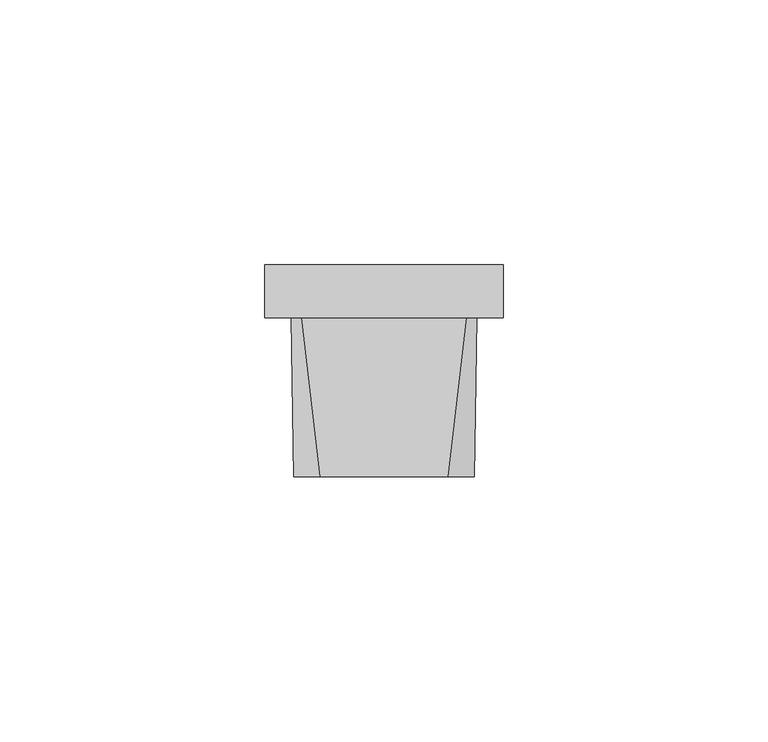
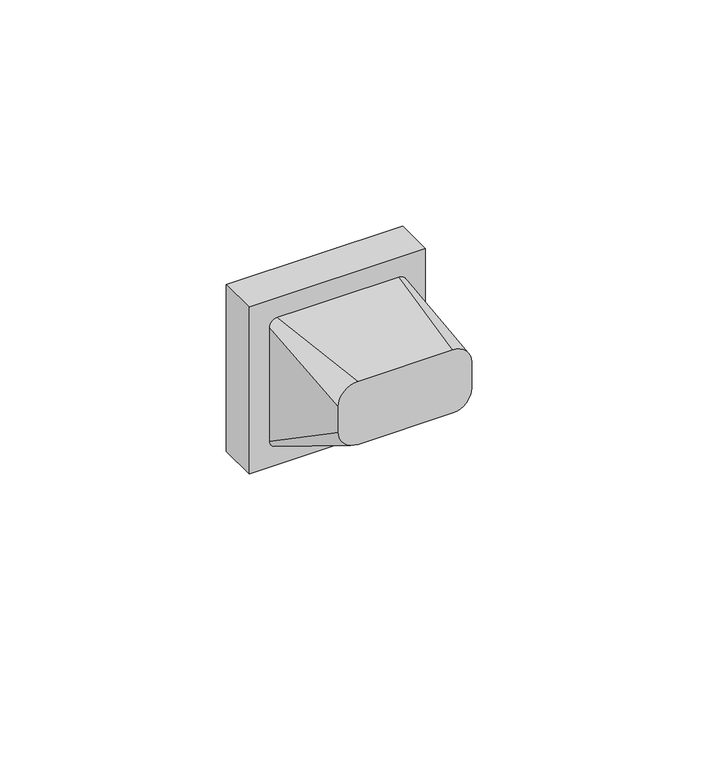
"""IFC4 building model written with IfcOpenShell, lengths in millimetres: proxy geometry, IEK_Skandy_Механизм розетки мультимедийной : HDMI_SK-H01B."""

from ifc_helpers import new_model, si_unit, frame, origin, place, context, project, spatial, polyline, circle_curve, outline, extrude, faceted_brep, source, transform, mapped, element, save
from ifc_brep_helpers import plane_surface, spline_surface, advanced_brep


def electrical_fixtures_ba285ae0(model_context):
    return source(origin(), model_context, "Body", "SolidModel", [
        faceted_brep([(-22.5, 10.0, 22.5), (22.5, 10.0, 22.5), (22.5, 10.0, -22.5), (-22.5, 10.0, -22.5), (7.5, 10.0, -1.7401485), (7.5, 10.0, 1.7401485), (-7.5, 10.0, 1.7401485), (-7.5, 10.0, -1.7401485), (-5.796619, 10.0, -1.7401485), (-4.3308826, 10.0, -3.2058849), (4.3308826, 10.0, -3.2058849), (5.796619, 10.0, -1.7401485), (-22.5, 0.0, 22.5), (-22.5, 0.0, -22.5), (22.5, 0.0, -22.5), (22.5, 0.0, 22.5), (7.5, 1.2588911, 1.7401485), (7.5, 1.2588911, -1.7401485), (5.796619, 1.2588911, -1.7401485), (4.3308826, 1.2588911, -3.2058849), (-4.3308826, 1.2588911, -3.2058849), (-5.796619, 1.2588911, -1.7401485), (-7.5, 1.2588911, -1.7401485), (-7.5, 1.2588911, 1.7401485)], [[[0, 1, 2, 3], [4, 5, 6, 7, 8, 9, 10, 11]], [[12, 13, 14, 15]], [[0, 3, 13, 12]], [[3, 2, 14, 13]], [[2, 1, 15, 14]], [[1, 0, 12, 15]], [[16, 17, 18, 19, 20, 21, 22, 23]], [[17, 16, 5, 4]], [[18, 17, 4, 11]], [[19, 18, 11, 10]], [[20, 19, 10, 9]], [[21, 20, 9, 8]], [[22, 21, 8, 7]], [[23, 22, 7, 6]], [[16, 23, 6, 5]]]),
        extrude(outline(polyline([(-3.1058849, -4.2894612), (-3.1058849, 4.2894612), (-1.6401485, 5.7551977), (-1.6401485, 7.4), (1.6401485, 7.4), (1.6401485, -7.4), (-1.6401485, -7.4), (-1.6401485, -5.7551977), (-3.1058849, -4.2894612)]), holes=[polyline([(-2.8058849, -4.1651972), (-1.3401485, -5.6309336), (-1.3401485, -7.1), (1.3401485, -7.1), (1.3401485, 7.1), (-1.3401485, 7.1), (-1.3401485, 5.6309336), (-2.8058849, 4.1651972), (-2.8058849, -4.1651972)])]), frame((0.0, 1.2588911, 0.0), z_axis=(0.0, 1.0, 0.0), x_axis=(0.0, 0.0, 1.0)), (0.0, 0.0, 1.0), 8.1294724),
        extrude(outline(polyline([(-5.8848007, 9.3883636), (5.8596861, 9.3883636), (5.8596861, 1.2588911), (-5.8848007, 1.2588911), (-5.8848007, 9.3883636)])), frame((0.0, 0.0, -0.5407319), z_axis=(0.0, 0.0, 1.0), x_axis=(1.0, 0.0, 0.0)), (0.0, 0.0, 1.0), 0.9188569),
        advanced_brep(
        [(-12.0, -30.0, 17.0), (-17.0, -30.0, 12.0), (-17.0, -30.0, 5.0), (-12.0, -30.0, 0.0), (12.0, -30.0, 0.0), (17.0, -30.0, 5.0), (17.0, -30.0, 12.0), (12.0, -30.0, 17.0), (-15.5, 0.0, 17.5), (15.5, 0.0, 17.5), (17.5, 0.0, 15.5), (17.5, 0.0, -15.5), (15.5, 0.0, -17.5), (-15.5, 0.0, -17.5), (-17.5, 0.0, -15.5), (-17.5, 0.0, 15.5)],
        [
            (0, 1, circle_curve(frame((-12.0, -30.0, 12.0), z_axis=(0.0, -1.0, 0.0), x_axis=(1.0, 0.0, 0.0)), 5.0)),
            (1, 2),
            (2, 3, circle_curve(frame((-12.0, -30.0, 5.0), z_axis=(0.0, -1.0, 0.0), x_axis=(1.0, 0.0, 0.0)), 5.0)),
            (3, 4),
            (4, 5, circle_curve(frame((12.0, -30.0, 5.0), z_axis=(0.0, -1.0, 0.0), x_axis=(1.0, 0.0, 0.0)), 5.0)),
            (5, 6),
            (6, 7, circle_curve(frame((12.0, -30.0, 12.0), z_axis=(0.0, -1.0, 0.0), x_axis=(1.0, 0.0, 0.0)), 5.0)),
            (7, 0),
            (8, 9),
            (9, 10, circle_curve(frame((15.5, 0.0, 15.5), z_axis=(0.0, 1.0, 0.0), x_axis=(1.0, 0.0, 0.0)), 2.0)),
            (10, 11),
            (11, 12, circle_curve(frame((15.5, 0.0, -15.5), z_axis=(0.0, 1.0, 0.0), x_axis=(1.0, 0.0, 0.0)), 2.0)),
            (12, 13),
            (13, 14, circle_curve(frame((-15.5, 0.0, -15.5), z_axis=(0.0, 1.0, 0.0), x_axis=(1.0, 0.0, 0.0)), 2.0)),
            (14, 15),
            (15, 8, circle_curve(frame((-15.5, 0.0, 15.5), z_axis=(0.0, 1.0, 0.0), x_axis=(1.0, 0.0, 0.0)), 2.0)),
            (8, 0),
            (7, 9),
            (6, 10),
            (5, 11),
            (4, 12),
            (3, 13),
            (15, 1),
            (14, 2),
        ],
        [
            plane_surface(frame((0.0, -30.0, 8.5), z_axis=(0.0, -1.0, 0.0), x_axis=(-1.0, 0.0, 0.0))),
            plane_surface(frame((0.0, 0.0, 0.0), z_axis=(0.0, 1.0, 0.0), x_axis=(-1.0, 0.0, 0.0))),
            plane_surface(frame((0.0, 0.0, 17.5), z_axis=(0.0, -0.01666435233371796, 0.9998611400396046), x_axis=(-1.0, 0.0, 0.0))),
            spline_surface(2, 1, [[(17.5, 0.0, 15.5), (17.0, -30.0, 12.0)], [(17.5, 0.0, 17.5), (17.0, -30.0, 17.0)], [(15.5, 0.0, 17.5), (12.0, -30.0, 17.0)]], [3, 3], [2, 2], [0.0, 1.0], [0.0, 1.0], weights=[[1.0, 1.0], [0.7071067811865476, 0.7071067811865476], [1.0, 1.0]]),
            plane_surface(frame((17.5, 0.0, 0.0), z_axis=(0.9998611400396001, -0.016664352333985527, 0.0), x_axis=(0.0, 0.0, 1.0))),
            spline_surface(2, 1, [[(15.5, 0.0, -17.5), (12.0, -30.0, 0.0)], [(17.5, 0.0, -17.5), (17.0, -30.0, 0.0)], [(17.5, 0.0, -15.5), (17.0, -30.0, 5.0)]], [3, 3], [2, 2], [0.0, 1.0], [0.0, 1.0], weights=[[1.0, 1.0], [0.7071067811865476, 0.7071067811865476], [1.0, 1.0]]),
            plane_surface(frame((0.0, 0.0, -17.5), z_axis=(0.0, -0.5038710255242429, -0.863778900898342), x_axis=(1.0, 0.0, 0.0))),
            spline_surface(2, 1, [[(-15.5, 0.0, 17.5), (-12.0, -30.0, 17.0)], [(-17.5, 0.0, 17.5), (-17.0, -30.0, 17.0)], [(-17.5, 0.0, 15.5), (-17.0, -30.0, 12.0)]], [3, 3], [2, 2], [0.0, 1.0], [0.0, 1.0], weights=[[1.0, 1.0], [0.7071067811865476, 0.7071067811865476], [1.0, 1.0]]),
            plane_surface(frame((-17.5, 0.0, 0.0), z_axis=(-0.9998611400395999, -0.01666435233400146, 0.0), x_axis=(0.0, 0.0, -1.0))),
            spline_surface(2, 1, [[(-17.5, 0.0, -15.5), (-17.0, -30.0, 5.0)], [(-17.5, 0.0, -17.5), (-17.0, -30.0, 0.0)], [(-15.5, 0.0, -17.5), (-12.0, -30.0, 0.0)]], [3, 3], [2, 2], [0.0, 1.0], [0.0, 1.0], weights=[[1.0, 1.0], [0.7071067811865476, 0.7071067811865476], [1.0, 1.0]]),
        ],
        [
            (0, [[1, 2, 3, 4, 5, 6, 7, 8]]),
            (1, [[9, 10, 11, 12, 13, 14, 15, 16]]),
            (2, [[-9, 17, -8, 18]]),
            (3, [[-10, -18, -7, 19]]),
            (4, [[-11, -19, -6, 20]]),
            (5, [[-12, -20, -5, 21]]),
            (6, [[-13, -21, -4, 22]]),
            (7, [[-16, 23, -1, -17]]),
            (8, [[-15, 24, -2, -23]]),
            (9, [[-14, -22, -3, -24]]),
        ],
    ),
    ])


if __name__ == "__main__":
    model = new_model("IFC4")
    model_context = context("Model", 3, world=origin())
    ifc_project = project(units=[si_unit("LENGTHUNIT", "METRE", prefix="MILLI")], contexts=[model_context])
    site = spatial("IfcSite", under=ifc_project)
    building = spatial("IfcBuilding", under=site)
    placement = place(None, origin())
    electrical_fixtures_shape = electrical_fixtures_ba285ae0(model_context)
    element("IfcBuildingElementProxy", 1, Name="IEK_Skandy_Механизм розетки мультимедийной : HDMI_SK-H01B", ObjectType="IEK_Skandy_Механизм розетки мультимедийной : HDMI_SK-H01B", at=placement, inside=building, context=model_context, shape_type="MappedRepresentation", body=[
        mapped(electrical_fixtures_shape, transform((0.0, 0.0, 0.0), x_axis=(1.0, 0.0, 0.0), y_axis=(0.0, 1.0, 0.0), z_axis=(0.0, 0.0, 1.0))),
    ])
    save(model, "model.ifc")
